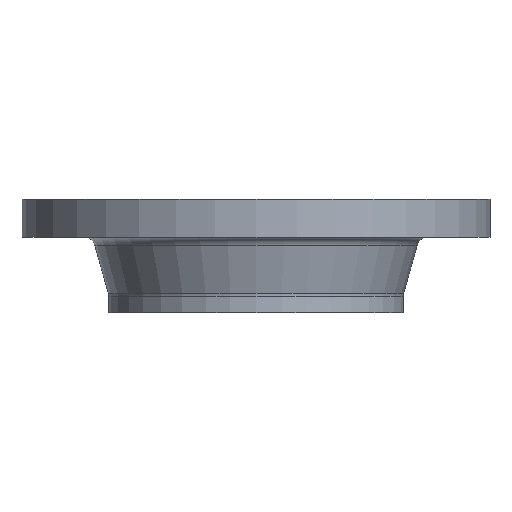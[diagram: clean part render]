
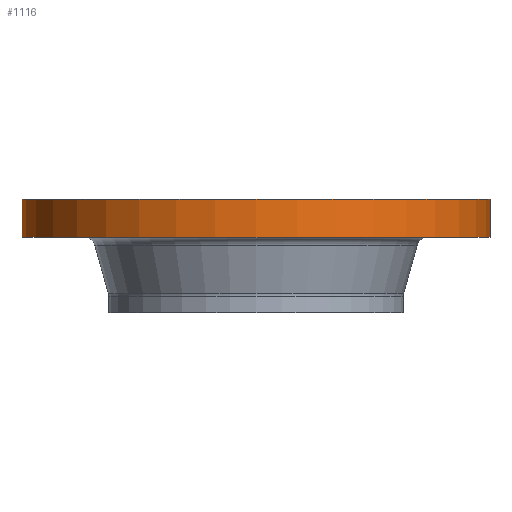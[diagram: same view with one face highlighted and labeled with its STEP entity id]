
A CAD part, front view. The second image highlights one B-rep face of the part: STEP entity #1116.
In plain terms, the highlighted cylindrical face has radius 257.5 mm (diameter 515 mm), a partial arc.
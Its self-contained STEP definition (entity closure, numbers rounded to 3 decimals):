
#43 = EDGE_CURVE ( 'NONE', #868, #1088, #432, .T. ) ;
#101 = DIRECTION ( 'NONE',  ( 1., 0., 0. ) ) ;
#171 = DIRECTION ( 'NONE',  ( 0., 0., 1. ) ) ;
#176 = CARTESIAN_POINT ( 'NONE',  ( -257.5, 0., -42. ) ) ;
#183 = LINE ( 'NONE', #1278, #913 ) ;
#189 = DIRECTION ( 'NONE',  ( 1., 0., 0. ) ) ;
#208 = DIRECTION ( 'NONE',  ( 0., 0., 1. ) ) ;
#216 = DIRECTION ( 'NONE',  ( 0., 0., 1. ) ) ;
#218 = EDGE_CURVE ( 'NONE', #1088, #1551, #387, .T. ) ;
#323 = EDGE_CURVE ( 'NONE', #868, #1030, #1472, .T. ) ;
#366 = DIRECTION ( 'NONE',  ( 0., 0., 1. ) ) ;
#387 = CIRCLE ( 'NONE', #865, 257.5 ) ;
#432 = LINE ( 'NONE', #563, #1344 ) ;
#438 = CARTESIAN_POINT ( 'NONE',  ( 257.5, 0., 0. ) ) ;
#440 = CARTESIAN_POINT ( 'NONE',  ( 0., 0., -42. ) ) ;
#525 = CARTESIAN_POINT ( 'NONE',  ( -257.5, 0., 0. ) ) ;
#563 = CARTESIAN_POINT ( 'NONE',  ( -257.5, 0., -125. ) ) ;
#791 = EDGE_CURVE ( 'NONE', #1030, #1551, #183, .T. ) ;
#810 = ORIENTED_EDGE ( 'NONE', *, *, #43, .F. ) ;
#817 = ORIENTED_EDGE ( 'NONE', *, *, #323, .T. ) ;
#822 = ORIENTED_EDGE ( 'NONE', *, *, #791, .T. ) ;
#823 = ORIENTED_EDGE ( 'NONE', *, *, #218, .F. ) ;
#865 = AXIS2_PLACEMENT_3D ( 'NONE', #1157, #171, #899 ) ;
#868 = VERTEX_POINT ( 'NONE', #176 ) ;
#896 = CYLINDRICAL_SURFACE ( 'NONE', #1504, 257.5 ) ;
#899 = DIRECTION ( 'NONE',  ( 1., 0., 0. ) ) ;
#902 = FACE_OUTER_BOUND ( 'NONE', #1357, .T. ) ;
#913 = VECTOR ( 'NONE', #366, 1000. ) ;
#990 = CARTESIAN_POINT ( 'NONE',  ( 257.5, 0., -42. ) ) ;
#1030 = VERTEX_POINT ( 'NONE', #990 ) ;
#1050 = CARTESIAN_POINT ( 'NONE',  ( 0., 0., -125. ) ) ;
#1059 = DIRECTION ( 'NONE',  ( 0., 0., 1. ) ) ;
#1088 = VERTEX_POINT ( 'NONE', #525 ) ;
#1116 = ADVANCED_FACE ( 'NONE', ( #902 ), #896, .T. ) ;
#1157 = CARTESIAN_POINT ( 'NONE',  ( 0., 0., 0. ) ) ;
#1278 = CARTESIAN_POINT ( 'NONE',  ( 257.5, 0., -125. ) ) ;
#1344 = VECTOR ( 'NONE', #216, 1000. ) ;
#1357 = EDGE_LOOP ( 'NONE', ( #810, #817, #822, #823 ) ) ;
#1449 = AXIS2_PLACEMENT_3D ( 'NONE', #440, #1059, #101 ) ;
#1472 = CIRCLE ( 'NONE', #1449, 257.5 ) ;
#1504 = AXIS2_PLACEMENT_3D ( 'NONE', #1050, #208, #189 ) ;
#1551 = VERTEX_POINT ( 'NONE', #438 ) ;
